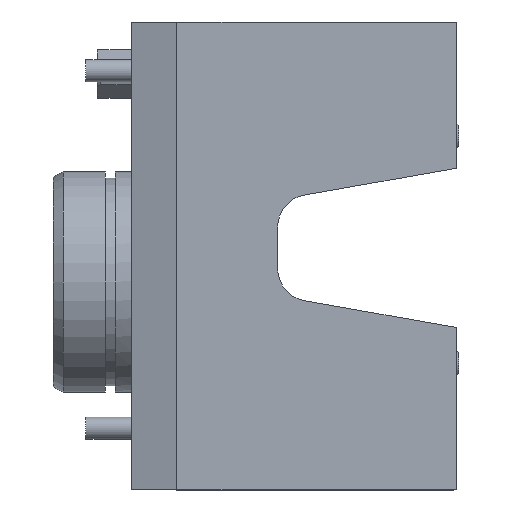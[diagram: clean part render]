
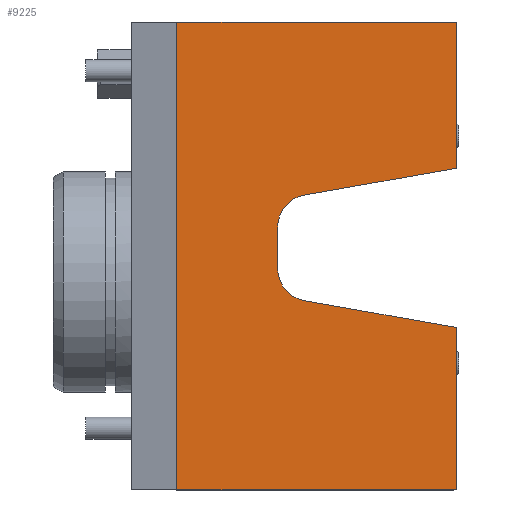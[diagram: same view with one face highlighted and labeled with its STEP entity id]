
A CAD part, front view. The second image highlights one B-rep face of the part: STEP entity #9225.
In plain terms, the highlighted planar face has unit normal (0, -1, 0).
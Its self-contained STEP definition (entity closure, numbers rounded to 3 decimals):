
#4200=CIRCLE('',#8742,10.);
#4201=CIRCLE('',#8743,10.);
#4371=ORIENTED_EDGE('',*,*,#5958,.T.);
#4372=ORIENTED_EDGE('',*,*,#5932,.T.);
#4373=ORIENTED_EDGE('',*,*,#5979,.T.);
#4374=ORIENTED_EDGE('',*,*,#5980,.F.);
#4375=ORIENTED_EDGE('',*,*,#5970,.T.);
#4376=ORIENTED_EDGE('',*,*,#5981,.F.);
#4377=ORIENTED_EDGE('',*,*,#5982,.F.);
#4378=ORIENTED_EDGE('',*,*,#5983,.F.);
#4379=ORIENTED_EDGE('',*,*,#5984,.F.);
#4380=ORIENTED_EDGE('',*,*,#5985,.F.);
#5116=VECTOR('',#6880,1.);
#5135=VECTOR('',#6927,1.);
#5143=VECTOR('',#6947,1.);
#5150=VECTOR('',#6960,1.);
#5151=VECTOR('',#6961,1.);
#5152=VECTOR('',#6962,1.);
#5153=VECTOR('',#6965,1.);
#5154=VECTOR('',#6968,1.);
#5380=LINE('',#7848,#5116);
#5399=LINE('',#7898,#5135);
#5407=LINE('',#7923,#5143);
#5414=LINE('',#7940,#5150);
#5415=LINE('',#7941,#5151);
#5416=LINE('',#7943,#5152);
#5417=LINE('',#7947,#5153);
#5418=LINE('',#7950,#5154);
#5643=VERTEX_POINT('',#7845);
#5644=VERTEX_POINT('',#7847);
#5661=VERTEX_POINT('',#7897);
#5671=VERTEX_POINT('',#7921);
#5672=VERTEX_POINT('',#7922);
#5679=VERTEX_POINT('',#7939);
#5680=VERTEX_POINT('',#7942);
#5681=VERTEX_POINT('',#7944);
#5682=VERTEX_POINT('',#7946);
#5683=VERTEX_POINT('',#7948);
#5932=EDGE_CURVE('',#5644,#5643,#5380,.T.);
#5958=EDGE_CURVE('',#5661,#5644,#5399,.T.);
#5970=EDGE_CURVE('',#5671,#5672,#5407,.T.);
#5979=EDGE_CURVE('',#5643,#5679,#5414,.T.);
#5980=EDGE_CURVE('',#5671,#5679,#5415,.T.);
#5981=EDGE_CURVE('',#5680,#5672,#5416,.T.);
#5982=EDGE_CURVE('',#5681,#5680,#4200,.T.);
#5983=EDGE_CURVE('',#5682,#5681,#5417,.T.);
#5984=EDGE_CURVE('',#5683,#5682,#4201,.T.);
#5985=EDGE_CURVE('',#5661,#5683,#5418,.T.);
#6344=EDGE_LOOP('',(#4371,#4372,#4373,#4374,#4375,#4376,#4377,#4378,#4379,
#4380));
#6610=FACE_BOUND('',#6344,.T.);
#6880=DIRECTION('',(-86.,0.,0.));
#6927=DIRECTION('',(0.,0.,45.));
#6947=DIRECTION('',(0.,0.,50.));
#6958=DIRECTION('',(0.,-1.,0.));
#6959=DIRECTION('',(-1.,0.,0.));
#6960=DIRECTION('',(0.,0.,-144.));
#6961=DIRECTION('',(-86.,0.,0.));
#6962=DIRECTION('',(46.736,0.,-8.241));
#6963=DIRECTION('',(0.,-1.,0.));
#6964=DIRECTION('',(-10.,0.,0.));
#6965=DIRECTION('',(0.,0.,-12.822));
#6966=DIRECTION('',(0.,-1.,0.));
#6967=DIRECTION('',(-10.,0.,0.));
#6968=DIRECTION('',(-46.736,0.,-8.241));
#7845=CARTESIAN_POINT('',(14.,-47.,80.));
#7847=CARTESIAN_POINT('',(100.,-47.,80.));
#7848=CARTESIAN_POINT('',(100.,-47.,80.));
#7897=CARTESIAN_POINT('',(100.,-47.,35.));
#7898=CARTESIAN_POINT('',(100.,-47.,35.));
#7921=CARTESIAN_POINT('',(100.,-47.,-64.));
#7922=CARTESIAN_POINT('',(100.,-47.,-14.));
#7923=CARTESIAN_POINT('',(100.,-47.,-64.));
#7938=CARTESIAN_POINT('',(100.,-47.,-64.));
#7939=CARTESIAN_POINT('',(14.,-47.,-64.));
#7940=CARTESIAN_POINT('',(14.,-47.,80.));
#7941=CARTESIAN_POINT('',(100.,-47.,-64.));
#7942=CARTESIAN_POINT('',(53.264,-47.,-5.759));
#7943=CARTESIAN_POINT('',(53.264,-47.,-5.759));
#7944=CARTESIAN_POINT('',(45.,-47.,4.089));
#7945=CARTESIAN_POINT('',(55.,-47.,4.089));
#7946=CARTESIAN_POINT('',(45.,-47.,16.911));
#7947=CARTESIAN_POINT('',(45.,-47.,16.911));
#7948=CARTESIAN_POINT('',(53.264,-47.,26.759));
#7949=CARTESIAN_POINT('',(55.,-47.,16.911));
#7950=CARTESIAN_POINT('',(100.,-47.,35.));
#8741=AXIS2_PLACEMENT_3D('',#7938,#6958,#6959);
#8742=AXIS2_PLACEMENT_3D('',#7945,#6963,#6964);
#8743=AXIS2_PLACEMENT_3D('',#7949,#6966,#6967);
#9072=PLANE('',#8741);
#9225=ADVANCED_FACE('',(#6610),#9072,.T.);
